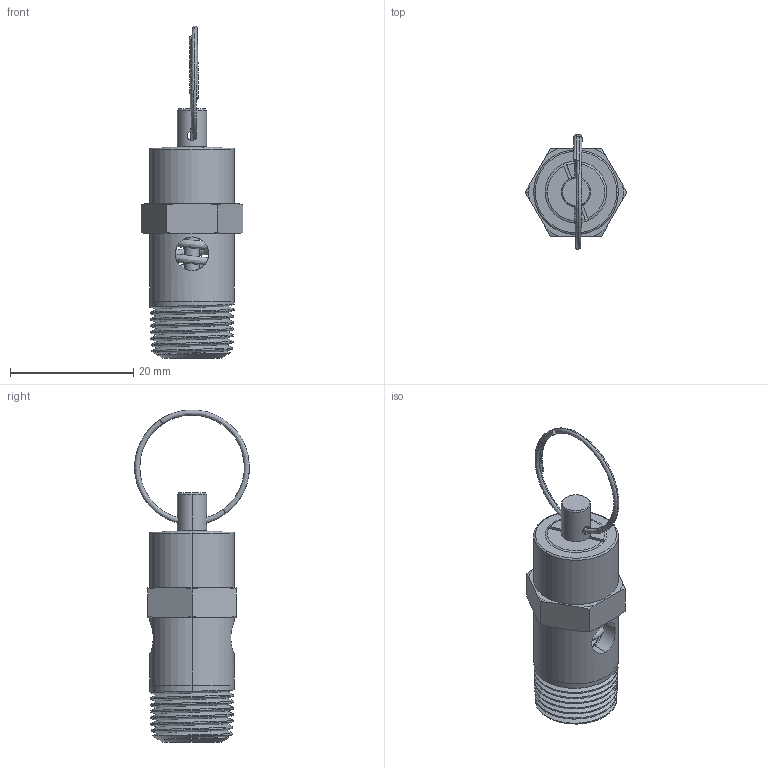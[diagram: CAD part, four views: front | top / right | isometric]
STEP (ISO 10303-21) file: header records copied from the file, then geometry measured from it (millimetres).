
FILE_DESCRIPTION (( 'STEP AP203' ), '1' );
FILE_NAME ('CVM2-SERIES.STEP', '2022-11-29T21:55:50', ( '' ), ( '' ), 'SwSTEP 2.0', 'SolidWorks 2021', '' );
FILE_SCHEMA (( 'CONFIG_CONTROL_DESIGN' ));
Length unit declared in the file: inch
Products named in the file (1): CVM2-SERIES
Bounding box: 16.5 x 18.62 x 53.82 mm (x, y, z)
Volume: 4468.6 mm3; surface area: 3151.6 mm2
Topology: 1 solids, 1 shells, 110 faces, 299 edges, 197 vertices
Faces by surface type: cone 42, cylinder 33, plane 25, bspline 8, torus 2
Entity records: 10344 total; most frequent: CARTESIAN_POINT 7729, ORIENTED_EDGE 592, DIRECTION 446, EDGE_CURVE 296, VERTEX_POINT 191, AXIS2_PLACEMENT_3D 178, EDGE_LOOP 125, FACE_OUTER_BOUND 110
